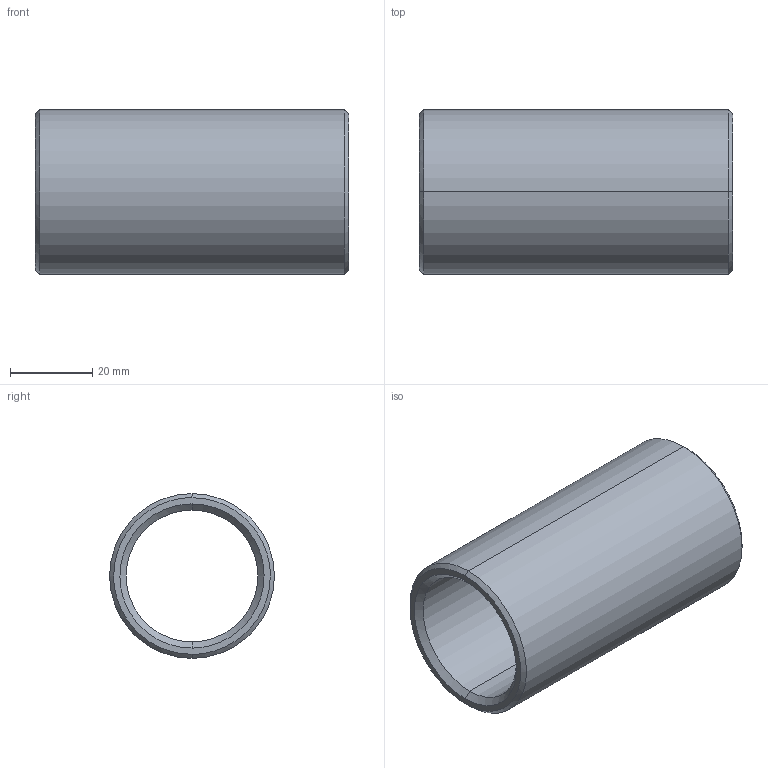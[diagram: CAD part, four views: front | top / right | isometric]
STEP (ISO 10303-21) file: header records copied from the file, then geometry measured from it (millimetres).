
FILE_DESCRIPTION(('CATIA V5 STEP Exchange'),'2;1');
FILE_NAME('C:\Users\Utente\Desktop\IO LAVORO\3D X SITO CF\X SITO\PLASTICA\352\352-32X76.stp','2021-04-14T14:59:58+00:00',('none'),('none'),'CATIA Version 5 Release 20 GA (IN-10)','CATIA V5 STEP AP203','none');
FILE_SCHEMA(('CONFIG_CONTROL_DESIGN'));
Length unit declared in the file: millimetre
Products named in the file (1): 352-32X76
Bounding box: 76 x 40 x 40 mm (x, y, z)
Volume: 34119.5 mm3; surface area: 17817.6 mm2
Topology: 1 solids, 1 shells, 14 faces, 44 edges, 32 vertices
Faces by surface type: cone 6, cylinder 4, plane 2, torus 2
Entity records: 634 total; most frequent: CARTESIAN_POINT 203, ORIENTED_EDGE 88, DIRECTION 64, EDGE_CURVE 44, AXIS2_PLACEMENT_3D 41, VERTEX_POINT 32, CIRCLE 26, EDGE_LOOP 16
